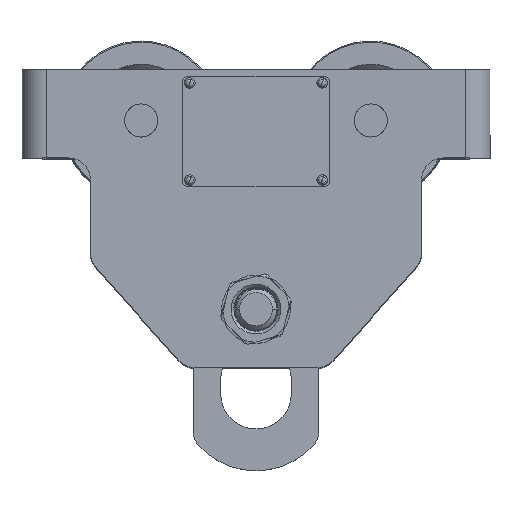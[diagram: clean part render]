
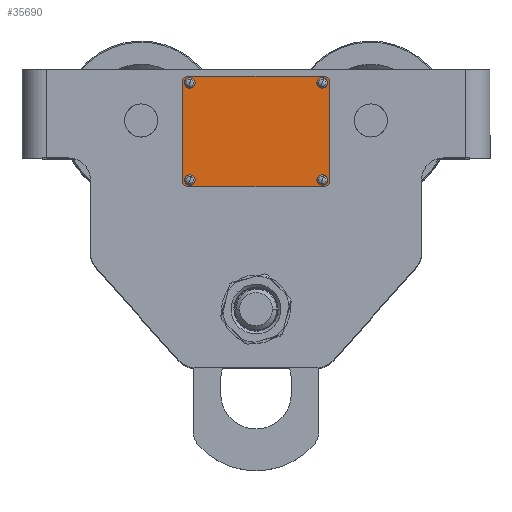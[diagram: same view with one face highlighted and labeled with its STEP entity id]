
A CAD part, top view. The second image highlights one B-rep face of the part: STEP entity #35690.
In plain terms, the highlighted planar face has unit normal (0, 0, 1) as drawn and (0, 0, -1) by its records, which use the part's own axes.
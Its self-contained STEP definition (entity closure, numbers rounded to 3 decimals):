
#95 = CARTESIAN_POINT ( 'NONE',  ( -30.5, 25., 0. ) ) ;
#373 = ORIENTED_EDGE ( 'NONE', *, *, #1137, .T. ) ;
#555 = EDGE_LOOP ( 'NONE', ( #20192, #373 ) ) ;
#772 = DIRECTION ( 'NONE',  ( -1., 0., 0. ) ) ;
#789 = EDGE_CURVE ( 'NONE', #9595, #21918, #32003, .T. ) ;
#845 = CARTESIAN_POINT ( 'NONE',  ( 31.5, 22., 0. ) ) ;
#1137 = EDGE_CURVE ( 'NONE', #11397, #23407, #14717, .T. ) ;
#1185 = ORIENTED_EDGE ( 'NONE', *, *, #3983, .T. ) ;
#1480 = AXIS2_PLACEMENT_3D ( 'NONE', #34013, #28219, #8449 ) ;
#1873 = EDGE_CURVE ( 'NONE', #23407, #11397, #3267, .T. ) ;
#2512 = AXIS2_PLACEMENT_3D ( 'NONE', #27687, #19376, #22341 ) ;
#2822 = VERTEX_POINT ( 'NONE', #9704 ) ;
#2843 = AXIS2_PLACEMENT_3D ( 'NONE', #7596, #27380, #10426 ) ;
#3062 = DIRECTION ( 'NONE',  ( 0., 0., 1. ) ) ;
#3128 = EDGE_CURVE ( 'NONE', #30359, #3393, #17726, .T. ) ;
#3177 = EDGE_CURVE ( 'NONE', #16989, #30359, #18164, .T. ) ;
#3267 = CIRCLE ( 'NONE', #34455, 1.5 ) ;
#3393 = VERTEX_POINT ( 'NONE', #29460 ) ;
#3544 = CARTESIAN_POINT ( 'NONE',  ( 30., -22., 0. ) ) ;
#3583 = CIRCLE ( 'NONE', #2843, 1.5 ) ;
#3794 = VERTEX_POINT ( 'NONE', #28224 ) ;
#3820 = EDGE_CURVE ( 'NONE', #22448, #3876, #34920, .T. ) ;
#3876 = VERTEX_POINT ( 'NONE', #17677 ) ;
#3961 = CIRCLE ( 'NONE', #2512, 3. ) ;
#3983 = EDGE_CURVE ( 'NONE', #2822, #9905, #34508, .T. ) ;
#4018 = ORIENTED_EDGE ( 'NONE', *, *, #789, .T. ) ;
#4045 = FACE_BOUND ( 'NONE', #21049, .T. ) ;
#4696 = VERTEX_POINT ( 'NONE', #30206 ) ;
#4782 = ORIENTED_EDGE ( 'NONE', *, *, #35776, .T. ) ;
#4855 = ORIENTED_EDGE ( 'NONE', *, *, #34661, .T. ) ;
#5458 = ORIENTED_EDGE ( 'NONE', *, *, #25863, .F. ) ;
#6532 = CARTESIAN_POINT ( 'NONE',  ( -28.5, -22., 0. ) ) ;
#6662 = VECTOR ( 'NONE', #22774, 1000. ) ;
#6753 = LINE ( 'NONE', #24557, #34148 ) ;
#6988 = CARTESIAN_POINT ( 'NONE',  ( -28.5, 22., 0. ) ) ;
#7134 = VERTEX_POINT ( 'NONE', #16740 ) ;
#7309 = ORIENTED_EDGE ( 'NONE', *, *, #32034, .F. ) ;
#7545 = DIRECTION ( 'NONE',  ( 0., 0., 1. ) ) ;
#7596 = CARTESIAN_POINT ( 'NONE',  ( 30., 22., 0. ) ) ;
#8101 = EDGE_CURVE ( 'NONE', #18297, #16989, #35984, .T. ) ;
#8449 = DIRECTION ( 'NONE',  ( -1., 0., 0. ) ) ;
#8914 = ORIENTED_EDGE ( 'NONE', *, *, #8101, .F. ) ;
#9595 = VERTEX_POINT ( 'NONE', #845 ) ;
#9704 = CARTESIAN_POINT ( 'NONE',  ( -31.5, 22., 0. ) ) ;
#9905 = VERTEX_POINT ( 'NONE', #6988 ) ;
#10426 = DIRECTION ( 'NONE',  ( -1., 0., 0. ) ) ;
#10575 = DIRECTION ( 'NONE',  ( 0., -1., 0. ) ) ;
#10848 = CARTESIAN_POINT ( 'NONE',  ( 33.5, -22., 0. ) ) ;
#11136 = DIRECTION ( 'NONE',  ( -1., 0., 0. ) ) ;
#11397 = VERTEX_POINT ( 'NONE', #6532 ) ;
#11695 = ORIENTED_EDGE ( 'NONE', *, *, #3177, .F. ) ;
#12710 = ORIENTED_EDGE ( 'NONE', *, *, #19664, .T. ) ;
#13138 = PLANE ( 'NONE',  #32636 ) ;
#13143 = CARTESIAN_POINT ( 'NONE',  ( 30., 22., 0. ) ) ;
#13267 = CARTESIAN_POINT ( 'NONE',  ( 30.5, 25., 0. ) ) ;
#13272 = FACE_OUTER_BOUND ( 'NONE', #34694, .T. ) ;
#13547 = CIRCLE ( 'NONE', #29761, 1.5 ) ;
#13734 = CARTESIAN_POINT ( 'NONE',  ( -30.5, 22., 0. ) ) ;
#13790 = ORIENTED_EDGE ( 'NONE', *, *, #3128, .F. ) ;
#13881 = CARTESIAN_POINT ( 'NONE',  ( 28.5, -22., 0. ) ) ;
#14717 = CIRCLE ( 'NONE', #25440, 1.5 ) ;
#15776 = ORIENTED_EDGE ( 'NONE', *, *, #17615, .F. ) ;
#15967 = DIRECTION ( 'NONE',  ( 0., 0., -1. ) ) ;
#16278 = DIRECTION ( 'NONE',  ( 0., 1., 0. ) ) ;
#16444 = DIRECTION ( 'NONE',  ( 1., 0., 0. ) ) ;
#16740 = CARTESIAN_POINT ( 'NONE',  ( 33.5, -22., 0. ) ) ;
#16989 = VERTEX_POINT ( 'NONE', #13267 ) ;
#17571 = DIRECTION ( 'NONE',  ( 0., 0., 1. ) ) ;
#17615 = EDGE_CURVE ( 'NONE', #3876, #7134, #3961, .T. ) ;
#17677 = CARTESIAN_POINT ( 'NONE',  ( 30.5, -25., 0. ) ) ;
#17726 = CIRCLE ( 'NONE', #21678, 3. ) ;
#17947 = CARTESIAN_POINT ( 'NONE',  ( 28.5, 22., 0. ) ) ;
#18164 = LINE ( 'NONE', #33629, #32324 ) ;
#18297 = VERTEX_POINT ( 'NONE', #27290 ) ;
#19067 = DIRECTION ( 'NONE',  ( -1., 0., 0. ) ) ;
#19376 = DIRECTION ( 'NONE',  ( 0., 0., 1. ) ) ;
#19664 = EDGE_CURVE ( 'NONE', #9905, #2822, #13547, .T. ) ;
#19923 = CARTESIAN_POINT ( 'NONE',  ( -30.5, -25., 0. ) ) ;
#20132 = DIRECTION ( 'NONE',  ( 0., 0., 1. ) ) ;
#20192 = ORIENTED_EDGE ( 'NONE', *, *, #1873, .T. ) ;
#20547 = AXIS2_PLACEMENT_3D ( 'NONE', #3544, #3062, #25776 ) ;
#20653 = DIRECTION ( 'NONE',  ( 1., 0., 0. ) ) ;
#20767 = AXIS2_PLACEMENT_3D ( 'NONE', #21958, #24818, #24696 ) ;
#20891 = DIRECTION ( 'NONE',  ( 0., 0., 1. ) ) ;
#21049 = EDGE_LOOP ( 'NONE', ( #1185, #12710 ) ) ;
#21272 = CARTESIAN_POINT ( 'NONE',  ( 30.5, 22., 0. ) ) ;
#21622 = DIRECTION ( 'NONE',  ( 1., 0., 0. ) ) ;
#21667 = CARTESIAN_POINT ( 'NONE',  ( -30.5, -22., 0. ) ) ;
#21674 = DIRECTION ( 'NONE',  ( 0., 0., 1. ) ) ;
#21678 = AXIS2_PLACEMENT_3D ( 'NONE', #13734, #33507, #16444 ) ;
#21918 = VERTEX_POINT ( 'NONE', #17947 ) ;
#21958 = CARTESIAN_POINT ( 'NONE',  ( 30., -22., 0. ) ) ;
#21990 = CARTESIAN_POINT ( 'NONE',  ( -30., 22., 0. ) ) ;
#22287 = EDGE_LOOP ( 'NONE', ( #23650, #4855 ) ) ;
#22341 = DIRECTION ( 'NONE',  ( 1., 0., 0. ) ) ;
#22448 = VERTEX_POINT ( 'NONE', #28704 ) ;
#22774 = DIRECTION ( 'NONE',  ( 1., 0., 0. ) ) ;
#22818 = AXIS2_PLACEMENT_3D ( 'NONE', #21272, #20891, #29441 ) ;
#23033 = CARTESIAN_POINT ( 'NONE',  ( -30., -22., 0. ) ) ;
#23157 = DIRECTION ( 'NONE',  ( -1., 0., 0. ) ) ;
#23407 = VERTEX_POINT ( 'NONE', #23453 ) ;
#23453 = CARTESIAN_POINT ( 'NONE',  ( -31.5, -22., 0. ) ) ;
#23650 = ORIENTED_EDGE ( 'NONE', *, *, #35887, .T. ) ;
#23670 = EDGE_CURVE ( 'NONE', #3393, #3794, #6753, .T. ) ;
#23747 = LINE ( 'NONE', #10848, #29928 ) ;
#24292 = AXIS2_PLACEMENT_3D ( 'NONE', #29073, #17571, #20653 ) ;
#24557 = CARTESIAN_POINT ( 'NONE',  ( -33.5, -22., 0. ) ) ;
#24696 = DIRECTION ( 'NONE',  ( 1., 0., 0. ) ) ;
#24818 = DIRECTION ( 'NONE',  ( 0., 0., 1. ) ) ;
#25225 = AXIS2_PLACEMENT_3D ( 'NONE', #13143, #21674, #19067 ) ;
#25440 = AXIS2_PLACEMENT_3D ( 'NONE', #23033, #31307, #23157 ) ;
#25776 = DIRECTION ( 'NONE',  ( 1., 0., 0. ) ) ;
#25863 = EDGE_CURVE ( 'NONE', #3794, #22448, #30967, .T. ) ;
#27290 = CARTESIAN_POINT ( 'NONE',  ( 33.5, 22., 0. ) ) ;
#27380 = DIRECTION ( 'NONE',  ( 0., 0., 1. ) ) ;
#27614 = DIRECTION ( 'NONE',  ( -1., 0., 0. ) ) ;
#27687 = CARTESIAN_POINT ( 'NONE',  ( 30.5, -22., 0. ) ) ;
#28219 = DIRECTION ( 'NONE',  ( 0., 0., 1. ) ) ;
#28224 = CARTESIAN_POINT ( 'NONE',  ( -33.5, -22., 0. ) ) ;
#28704 = CARTESIAN_POINT ( 'NONE',  ( -30.5, -25., 0. ) ) ;
#29073 = CARTESIAN_POINT ( 'NONE',  ( -30., 22., 0. ) ) ;
#29211 = ORIENTED_EDGE ( 'NONE', *, *, #3820, .F. ) ;
#29441 = DIRECTION ( 'NONE',  ( -1., 0., 0. ) ) ;
#29460 = CARTESIAN_POINT ( 'NONE',  ( -33.5, 22., 0. ) ) ;
#29761 = AXIS2_PLACEMENT_3D ( 'NONE', #21990, #7545, #21622 ) ;
#29928 = VECTOR ( 'NONE', #16278, 1000. ) ;
#30206 = CARTESIAN_POINT ( 'NONE',  ( 31.5, -22., 0. ) ) ;
#30297 = VERTEX_POINT ( 'NONE', #13881 ) ;
#30359 = VERTEX_POINT ( 'NONE', #95 ) ;
#30967 = CIRCLE ( 'NONE', #1480, 3. ) ;
#31307 = DIRECTION ( 'NONE',  ( 0., 0., 1. ) ) ;
#31427 = FACE_BOUND ( 'NONE', #22287, .T. ) ;
#31607 = CIRCLE ( 'NONE', #20767, 1.5 ) ;
#31738 = ORIENTED_EDGE ( 'NONE', *, *, #23670, .F. ) ;
#32003 = CIRCLE ( 'NONE', #25225, 1.5 ) ;
#32034 = EDGE_CURVE ( 'NONE', #7134, #18297, #23747, .T. ) ;
#32324 = VECTOR ( 'NONE', #11136, 1000. ) ;
#32486 = EDGE_LOOP ( 'NONE', ( #4782, #4018 ) ) ;
#32636 = AXIS2_PLACEMENT_3D ( 'NONE', #21667, #15967, #27614 ) ;
#33173 = FACE_BOUND ( 'NONE', #555, .T. ) ;
#33507 = DIRECTION ( 'NONE',  ( 0., 0., 1. ) ) ;
#33629 = CARTESIAN_POINT ( 'NONE',  ( -30.5, 25., 0. ) ) ;
#34013 = CARTESIAN_POINT ( 'NONE',  ( -30.5, -22., 0. ) ) ;
#34148 = VECTOR ( 'NONE', #10575, 1000. ) ;
#34215 = CARTESIAN_POINT ( 'NONE',  ( -30., -22., 0. ) ) ;
#34455 = AXIS2_PLACEMENT_3D ( 'NONE', #34215, #20132, #772 ) ;
#34508 = CIRCLE ( 'NONE', #24292, 1.5 ) ;
#34661 = EDGE_CURVE ( 'NONE', #4696, #30297, #31607, .T. ) ;
#34694 = EDGE_LOOP ( 'NONE', ( #5458, #31738, #13790, #11695, #8914, #7309, #15776, #29211 ) ) ;
#34920 = LINE ( 'NONE', #19923, #6662 ) ;
#34932 = FACE_BOUND ( 'NONE', #32486, .T. ) ;
#35690 = ADVANCED_FACE ( 'NONE', ( #31427, #4045, #13272, #34932, #33173 ), #13138, .T. ) ;
#35768 = CIRCLE ( 'NONE', #20547, 1.5 ) ;
#35776 = EDGE_CURVE ( 'NONE', #21918, #9595, #3583, .T. ) ;
#35887 = EDGE_CURVE ( 'NONE', #30297, #4696, #35768, .T. ) ;
#35984 = CIRCLE ( 'NONE', #22818, 3. ) ;
